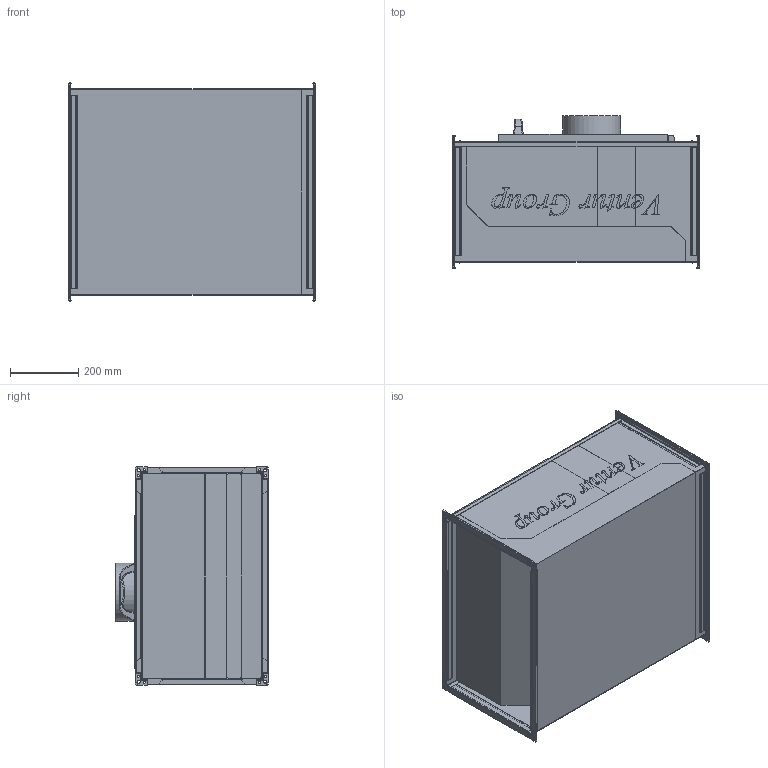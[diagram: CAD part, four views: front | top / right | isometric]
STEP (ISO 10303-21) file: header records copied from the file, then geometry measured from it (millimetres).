
FILE_DESCRIPTION(/* description */ (''),/* implementation_level */ '2;1');
FILE_NAME(/* name */ 'C:\Users\M.Janczarek\Documents\Modele uproszczone\IBF EC\IBF_EC_400T 41010125\IBF_EC_400T 41010125\IBF_EC_400T 41010125.stp',/* time_stamp */ '2018-04-03T10:04:05+02:00',/* author */ ('M.Janczarek'),/* organization */ (''),/* preprocessor_version */ 'ST-DEVELOPER v16.5',/* originating_system */ 'Autodesk Inventor 2017',/* authorisation */ '');
FILE_SCHEMA (('AUTOMOTIVE_DESIGN { 1 0 10303 214 3 1 1 }'));
Products named in the file (1): IBF_EC_400T 41010125
Bounding box: 723.6 x 447.99 x 639.97 mm (x, y, z)
Volume: 35735435 mm3; surface area: 4973719.2 mm2
Topology: 1 solids, 1 shells, 1717 faces, 4939 edges, 3172 vertices
Faces by surface type: plane 794, cylinder 481, bspline 334, torus 64, cone 28, sphere 16
Full cylindrical faces by diameter (mm): 6 x16, 9 x8, 170 x1, 280 x1, 419 x1
Entity records: 61720 total; most frequent: CARTESIAN_POINT 16762, ORIENTED_EDGE 9792, DIRECTION 8159, EDGE_CURVE 4896, VERTEX_POINT 3172, LINE 3049, VECTOR 3049, AXIS2_PLACEMENT_3D 2555
